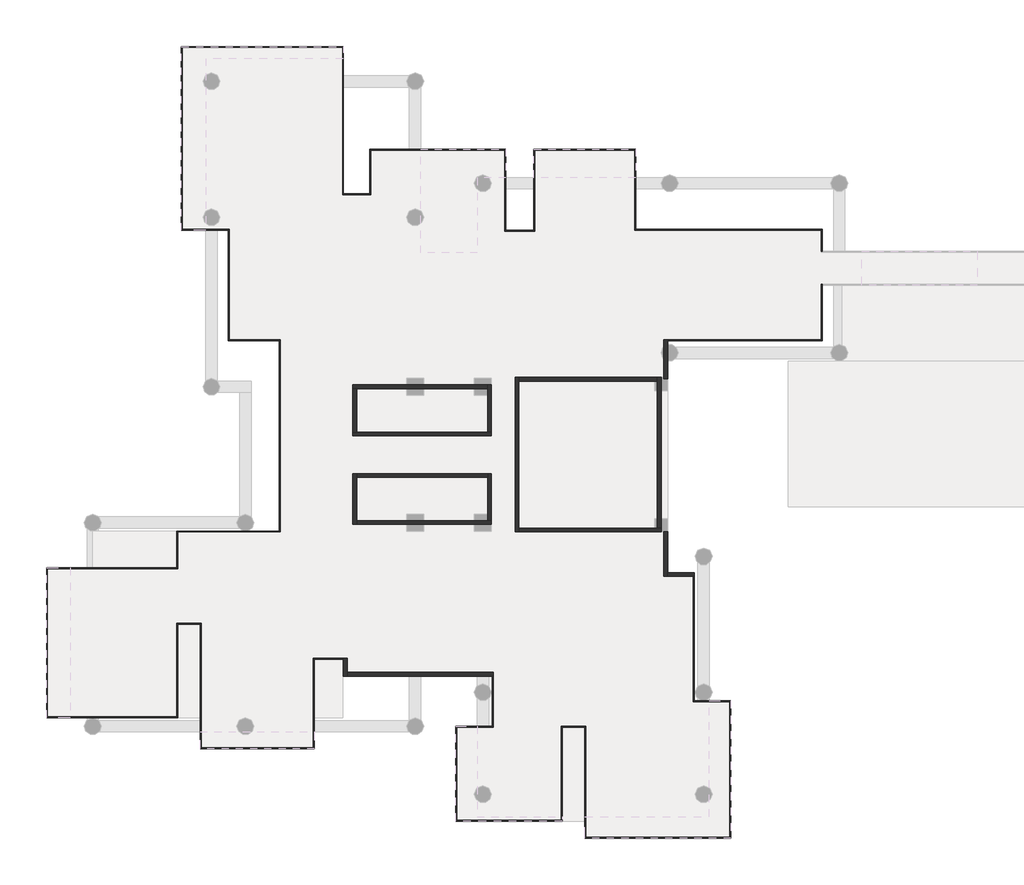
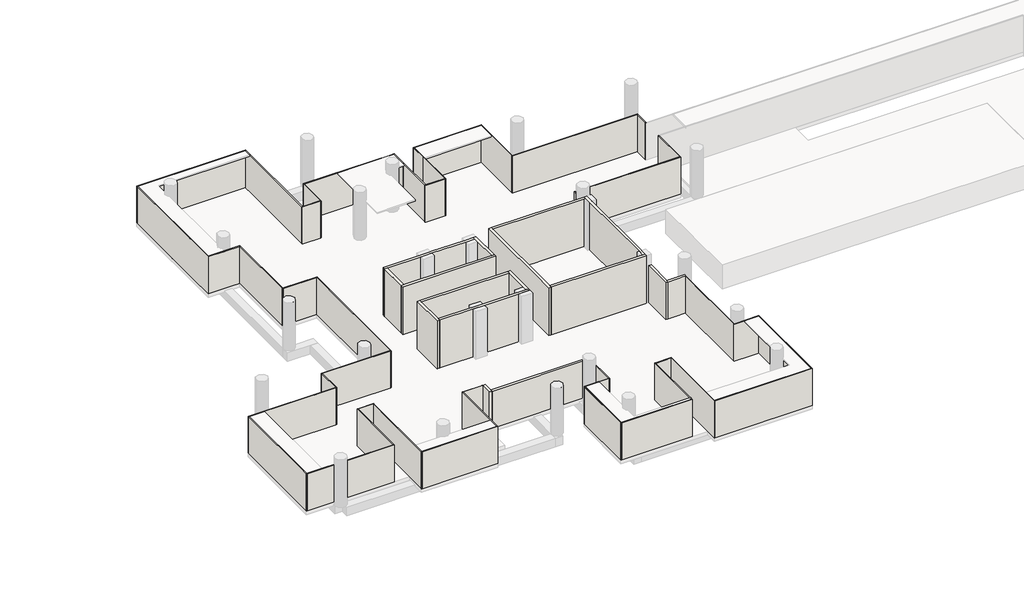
# One storey, part 1 of 3: 60 walls.
"""IFC4 building model written with IfcOpenShell, lengths in millimetres."""

from ifc_helpers import new_model, si_unit, frame, origin, place, context, project, spatial, polyline, outline, extrude, faceted_brep, element, save

model = new_model("IFC4")

# Units and contexts
model_context = context("Model", 3, world=origin())
ifc_project = project(units=[si_unit("LENGTHUNIT", "METRE", prefix="MILLI")], contexts=[model_context])

# Site, building, storey
site = spatial("IfcSite", under=ifc_project)
building = spatial("IfcBuilding", under=site)
storey = spatial("IfcBuildingStorey", under=building, Name="TW-L 02", Elevation=5999.9999686)

# Walls
placement = place(None, origin())
element("IfcWall", 1, ObjectType="AJN-ARC-CONCRETE WALL-20cm", at=placement, inside=storey, context=model_context, shape_type="Brep", body=[
    faceted_brep([(38200.0, 25900.0, 5999.9999686), (45550.0, 25900.0, 5999.9999686), (45550.0, 25900.0, 9999.9999686), (38200.0, 25900.0, 9999.9999686), (38200.0, 26100.0, 5999.9999686), (38200.0, 26100.0, 9999.9999686), (38400.0, 26100.0, 9999.9999686), (45350.0, 26100.0, 9999.9999686), (45550.0, 26100.0, 9999.9999686), (45550.0, 26100.0, 5999.9999686), (45350.0, 26100.0, 5999.9999686), (38400.0, 26100.0, 5999.9999686)], [[[0, 1, 2, 3]], [[4, 5, 6, 7, 8, 9, 10, 11]], [[1, 0, 4, 11, 10, 9]], [[3, 2, 8, 7, 6, 5]], [[2, 1, 9, 8]], [[0, 3, 5, 4]]]),
])
element("IfcWall", 2, ObjectType="AJN-ARC-CONCRETE WALL-20cm", at=placement, inside=storey, context=model_context, shape_type="Brep", body=[
    faceted_brep([(45550.0, 26100.0, 5999.9999686), (45550.0, 28600.0, 5999.9999686), (45550.0, 28600.0, 9999.9999686), (45550.0, 26100.0, 9999.9999686), (45350.0, 26100.0, 5999.9999686), (45350.0, 26100.0, 9999.9999686), (45350.0, 28050.0, 9999.9999686), (45350.0, 28400.0, 9999.9999686), (45350.0, 28600.0, 9999.9999686), (45350.0, 28600.0, 5999.9999686), (45350.0, 28400.0, 5999.9999686), (45350.0, 28050.0, 5999.9999686)], [[[0, 1, 2, 3]], [[4, 5, 6, 7, 8, 9, 10, 11]], [[1, 0, 4, 11, 10, 9]], [[3, 2, 8, 7, 6, 5]], [[2, 1, 9, 8]], [[0, 3, 5, 4]]]),
])
element("IfcWall", 3, ObjectType="AJN-ARC-CONCRETE WALL-20cm", at=placement, inside=storey, context=model_context, shape_type="Brep", body=[
    faceted_brep([(45350.0, 28600.0, 5999.9999686), (44650.0, 28600.0, 5999.9999686), (41950.0, 28600.0, 5999.9999686), (41050.0, 28600.0, 5999.9999686), (38200.0, 28600.0, 5999.9999686), (38200.0, 28600.0, 9999.9999686), (41050.0, 28600.0, 9999.9999686), (41950.0, 28600.0, 9999.9999686), (44650.0, 28600.0, 9999.9999686), (45350.0, 28600.0, 9999.9999686), (45350.0, 28400.0, 5999.9999686), (45350.0, 28400.0, 9999.9999686), (44650.0, 28400.0, 9999.9999686), (41950.0, 28400.0, 9999.9999686), (41050.0, 28400.0, 9999.9999686), (38400.0, 28400.0, 9999.9999686), (38200.0, 28400.0, 9999.9999686), (38200.0, 28400.0, 5999.9999686), (38400.0, 28400.0, 5999.9999686), (41050.0, 28400.0, 5999.9999686), (41950.0, 28400.0, 5999.9999686), (44650.0, 28400.0, 5999.9999686)], [[[0, 1, 2, 3, 4, 5, 6, 7, 8, 9]], [[10, 11, 12, 13, 14, 15, 16, 17, 18, 19, 20, 21]], [[4, 3, 2, 1, 0, 10, 21, 20, 19, 18, 17]], [[9, 8, 7, 6, 5, 16, 15, 14, 13, 12, 11]], [[5, 4, 17, 16]], [[0, 9, 11, 10]]]),
])
element("IfcWall", 4, ObjectType="AJN-ARC-CONCRETE WALL-20cm", at=placement, inside=storey, context=model_context, shape_type="SweptSolid", body=[
    extrude(outline(polyline([(38200.0, 26100.0), (38200.0, 28400.0), (38400.0, 28400.0), (38400.0, 26100.0), (38200.0, 26100.0)])), frame((0.0, 0.0, 5999.9999686), z_axis=(0.0, 0.0, 1.0), x_axis=(1.0, 0.0, 0.0)), (0.0, 0.0, 1.0), 4000.0),
])
element("IfcWall", 5, ObjectType="AJN-ARC-CONCRETE WALL-20cm", at=placement, inside=storey, context=model_context, shape_type="Brep", body=[
    faceted_brep([(38200.0, 23900.0, 5999.9999686), (38200.0, 21200.0, 5999.9999686), (38200.0, 21200.0, 9999.9999686), (38200.0, 23900.0, 9999.9999686), (38400.0, 23900.0, 5999.9999686), (38400.0, 23900.0, 9999.9999686), (38400.0, 23700.0, 9999.9999686), (38400.0, 21400.0, 9999.9999686), (38400.0, 21200.0, 9999.9999686), (38400.0, 21200.0, 5999.9999686), (38400.0, 21400.0, 5999.9999686), (38400.0, 23700.0, 5999.9999686)], [[[0, 1, 2, 3]], [[4, 5, 6, 7, 8, 9, 10, 11]], [[1, 0, 4, 11, 10, 9]], [[3, 2, 8, 7, 6, 5]], [[0, 3, 5, 4]], [[2, 1, 9, 8]]]),
])
element("IfcWall", 6, ObjectType="AJN-ARC-CONCRETE WALL-20cm", at=placement, inside=storey, context=model_context, shape_type="Brep", body=[
    faceted_brep([(38400.0, 21200.0, 5999.9999686), (41050.0, 21200.0, 5999.9999686), (41950.0, 21200.0, 5999.9999686), (44650.0, 21200.0, 5999.9999686), (45550.0, 21200.0, 5999.9999686), (45550.0, 21200.0, 9999.9999686), (44650.0, 21200.0, 9999.9999686), (41950.0, 21200.0, 9999.9999686), (41050.0, 21200.0, 9999.9999686), (38400.0, 21200.0, 9999.9999686), (38400.0, 21400.0, 5999.9999686), (38400.0, 21400.0, 9999.9999686), (41050.0, 21400.0, 9999.9999686), (41950.0, 21400.0, 9999.9999686), (44650.0, 21400.0, 9999.9999686), (45350.0, 21400.0, 9999.9999686), (45550.0, 21400.0, 9999.9999686), (45550.0, 21400.0, 5999.9999686), (45350.0, 21400.0, 5999.9999686), (44650.0, 21400.0, 5999.9999686), (41950.0, 21400.0, 5999.9999686), (41050.0, 21400.0, 5999.9999686)], [[[0, 1, 2, 3, 4, 5, 6, 7, 8, 9]], [[10, 11, 12, 13, 14, 15, 16, 17, 18, 19, 20, 21]], [[4, 3, 2, 1, 0, 10, 21, 20, 19, 18, 17]], [[9, 8, 7, 6, 5, 16, 15, 14, 13, 12, 11]], [[5, 4, 17, 16]], [[0, 9, 11, 10]]]),
])
element("IfcWall", 7, ObjectType="AJN-ARC-CONCRETE WALL-20cm", at=placement, inside=storey, context=model_context, shape_type="Brep", body=[
    faceted_brep([(45550.0, 21400.0, 5999.9999686), (45550.0, 23900.0, 5999.9999686), (45550.0, 23900.0, 9999.9999686), (45550.0, 21400.0, 9999.9999686), (45350.0, 21400.0, 5999.9999686), (45350.0, 21400.0, 9999.9999686), (45350.0, 21750.0, 9999.9999686), (45350.0, 23700.0, 9999.9999686), (45350.0, 23900.0, 9999.9999686), (45350.0, 23900.0, 5999.9999686), (45350.0, 23700.0, 5999.9999686), (45350.0, 21750.0, 5999.9999686)], [[[0, 1, 2, 3]], [[4, 5, 6, 7, 8, 9, 10, 11]], [[1, 0, 4, 11, 10, 9]], [[3, 2, 8, 7, 6, 5]], [[2, 1, 9, 8]], [[0, 3, 5, 4]]]),
])
element("IfcWall", 8, ObjectType="AJN-ARC-CONCRETE WALL-20cm", at=placement, inside=storey, context=model_context, shape_type="SweptSolid", body=[
    extrude(outline(polyline([(38400.0, 23900.0), (45350.0, 23900.0), (45350.0, 23700.0), (38400.0, 23700.0), (38400.0, 23900.0)])), frame((0.0, 0.0, 5999.9999686), z_axis=(0.0, 0.0, 1.0), x_axis=(1.0, 0.0, 0.0)), (0.0, 0.0, 1.0), 4000.0),
])
element("IfcWall", 9, ObjectType="AJN-ARC-CONCRETE WALL-20cm", at=placement, inside=storey, context=model_context, shape_type="Brep", body=[
    faceted_brep([(46800.0, 29000.0, 5999.9999686), (46800.0, 20800.0, 5999.9999686), (46800.0, 20800.0, 9999.9999686), (46800.0, 29000.0, 9999.9999686), (47000.0, 29000.0, 5999.9999686), (47000.0, 29000.0, 9999.9999686), (47000.0, 28800.0, 9999.9999686), (47000.0, 21000.0, 9999.9999686), (47000.0, 20800.0, 9999.9999686), (47000.0, 20800.0, 5999.9999686), (47000.0, 21000.0, 5999.9999686), (47000.0, 28800.0, 5999.9999686)], [[[0, 1, 2, 3]], [[4, 5, 6, 7, 8, 9, 10, 11]], [[1, 0, 4, 11, 10, 9]], [[3, 2, 8, 7, 6, 5]], [[0, 3, 5, 4]], [[2, 1, 9, 8]]]),
])
element("IfcWall", 10, ObjectType="AJN-ARC-CONCRETE WALL-20cm", at=placement, inside=storey, context=model_context, shape_type="Brep", body=[
    faceted_brep([(47000.0, 20800.0, 5999.9999686), (54550.0, 20800.0, 5999.9999686), (54550.0, 20800.0, 9999.9999686), (47000.0, 20800.0, 9999.9999686), (47000.0, 21000.0, 5999.9999686), (47000.0, 21000.0, 9999.9999686), (54200.0, 21000.0, 9999.9999686), (54350.0, 21000.0, 9999.9999686), (54550.0, 21000.0, 9999.9999686), (54550.0, 21000.0, 5999.9999686), (54350.0, 21000.0, 5999.9999686), (54200.0, 21000.0, 5999.9999686)], [[[0, 1, 2, 3]], [[4, 5, 6, 7, 8, 9, 10, 11]], [[1, 0, 4, 11, 10, 9]], [[3, 2, 8, 7, 6, 5]], [[2, 1, 9, 8]], [[0, 3, 5, 4]]]),
])
element("IfcWall", 11, ObjectType="AJN-ARC-CONCRETE WALL-20cm", at=placement, inside=storey, context=model_context, shape_type="Brep", body=[
    faceted_brep([(54550.0, 21000.0, 5999.9999686), (54550.0, 21500.0, 5999.9999686), (54550.0, 28300.0, 5999.9999686), (54550.0, 29000.0, 5999.9999686), (54550.0, 29000.0, 9999.9999686), (54550.0, 28300.0, 9999.9999686), (54550.0, 21500.0, 9999.9999686), (54550.0, 21000.0, 9999.9999686), (54350.0, 21000.0, 5999.9999686), (54350.0, 21000.0, 9999.9999686), (54350.0, 21500.0, 9999.9999686), (54350.0, 28300.0, 9999.9999686), (54350.0, 28800.0, 9999.9999686), (54350.0, 29000.0, 9999.9999686), (54350.0, 29000.0, 5999.9999686), (54350.0, 28800.0, 5999.9999686), (54350.0, 28300.0, 5999.9999686), (54350.0, 21500.0, 5999.9999686)], [[[0, 1, 2, 3, 4, 5, 6, 7]], [[8, 9, 10, 11, 12, 13, 14, 15, 16, 17]], [[3, 2, 1, 0, 8, 17, 16, 15, 14]], [[7, 6, 5, 4, 13, 12, 11, 10, 9]], [[4, 3, 14, 13]], [[0, 7, 9, 8]]]),
])
element("IfcWall", 12, ObjectType="AJN-ARC-CONCRETE WALL-20cm", at=placement, inside=storey, context=model_context, shape_type="Brep", body=[
    faceted_brep([(54350.0, 29000.0, 5999.9999686), (47000.0, 29000.0, 5999.9999686), (47000.0, 29000.0, 9999.9999686), (54350.0, 29000.0, 9999.9999686), (54350.0, 28800.0, 5999.9999686), (54350.0, 28800.0, 9999.9999686), (54200.0, 28800.0, 9999.9999686), (47000.0, 28800.0, 9999.9999686), (47000.0, 28800.0, 5999.9999686), (54200.0, 28800.0, 5999.9999686)], [[[0, 1, 2, 3]], [[4, 5, 6, 7, 8, 9]], [[1, 0, 4, 9, 8]], [[3, 2, 7, 6, 5]], [[2, 1, 8, 7]], [[0, 3, 5, 4]]]),
])
element("IfcWall", 13, ObjectType="AJN-ARC-CONCRETE WALL-20cm", at=placement, inside=storey, context=model_context, shape_type="Brep", body=[
    faceted_brep([(37700.0, 14100.0, 5999.9999686), (37700.0, 14050.0, 5999.9999686), (37700.0, 13150.0, 5999.9999686), (37700.0, 13150.0, 9099.9999686), (37700.0, 14050.0, 9099.9999686), (37700.0, 14100.0, 9099.9999686), (37900.0, 14100.0, 5999.9999686), (37900.0, 14100.0, 9099.9999686), (37900.0, 13350.0, 9099.9999686), (37900.0, 13150.0, 9099.9999686), (37900.0, 13150.0, 5999.9999686), (37900.0, 13350.0, 5999.9999686)], [[[0, 1, 2, 3, 4, 5]], [[6, 7, 8, 9, 10, 11]], [[2, 1, 0, 6, 11, 10]], [[5, 4, 3, 9, 8, 7]], [[0, 5, 7, 6]], [[3, 2, 10, 9]]]),
])
element("IfcWall", 14, ObjectType="AJN-ARC-CONCRETE WALL-20cm", at=placement, inside=storey, context=model_context, shape_type="Brep", body=[
    faceted_brep([(37900.0, 13150.0, 5999.9999686), (45600.0, 13150.0, 5999.9999686), (45650.0, 13150.0, 5999.9999686), (45650.0, 13150.0, 9099.9999686), (45600.0, 13150.0, 9099.9999686), (37900.0, 13150.0, 9099.9999686), (37900.0, 13350.0, 5999.9999686), (37900.0, 13350.0, 9099.9999686), (45650.0, 13350.0, 9099.9999686), (45650.0, 13350.0, 5999.9999686)], [[[0, 1, 2, 3, 4, 5]], [[6, 7, 8, 9]], [[2, 1, 0, 6, 9]], [[5, 4, 3, 8, 7]], [[3, 2, 9, 8]], [[0, 5, 7, 6]]]),
])
element("IfcWall", 15, ObjectType="AJN-ARC-CONCRETE WALL-20cm", at=placement, inside=storey, context=model_context, shape_type="Brep", body=[
    faceted_brep([(56300.0, 18650.0, 5999.9999686), (54900.0, 18650.0, 5999.9999686), (54900.0, 18650.0, 9099.9999686), (56300.0, 18650.0, 9099.9999686), (56300.0, 18450.0, 5999.9999686), (56300.0, 18450.0, 9099.9999686), (56250.0, 18450.0, 9099.9999686), (54900.0, 18450.0, 9099.9999686), (54900.0, 18450.0, 5999.9999686), (56250.0, 18450.0, 5999.9999686)], [[[0, 1, 2, 3]], [[4, 5, 6, 7, 8, 9]], [[1, 0, 4, 9, 8]], [[3, 2, 7, 6, 5]], [[0, 3, 5, 4]], [[2, 1, 8, 7]]]),
])
element("IfcWall", 16, ObjectType="AJN-ARC-CONCRETE WALL-20cm", at=placement, inside=storey, context=model_context, shape_type="Brep", body=[
    faceted_brep([(54900.0, 18450.0, 5999.9999686), (54900.0, 18650.0, 5999.9999686), (54900.0, 20800.0, 5999.9999686), (54900.0, 20800.0, 9099.9999686), (54900.0, 18650.0, 9099.9999686), (54900.0, 18450.0, 9099.9999686), (54700.0, 18450.0, 5999.9999686), (54700.0, 18450.0, 9099.9999686), (54700.0, 20800.0, 9099.9999686), (54700.0, 20800.0, 5999.9999686)], [[[0, 1, 2, 3, 4, 5]], [[6, 7, 8, 9]], [[2, 1, 0, 6, 9]], [[3, 2, 9, 8]], [[5, 4, 3, 8, 7]], [[0, 5, 7, 6]]]),
])
element("IfcWall", 17, ObjectType="AJN-ARC-CONCRETE WALL-20cm", at=placement, inside=storey, context=model_context, shape_type="Brep", body=[
    faceted_brep([(54900.0, 28925.0685078, 5999.9999686), (54900.0, 29861.2517806, 5999.9999686), (54900.0, 30738.7482194, 5999.9999686), (54900.0, 30950.0007569, 5999.9999686), (54900.0, 31000.0007569, 5999.9999686), (54900.0, 31000.0007569, 9099.9999686), (54900.0, 30950.0007569, 9099.9999686), (54900.0, 30738.7482194, 9099.9999686), (54900.0, 29861.2517806, 9099.9999686), (54900.0, 29000.0, 9099.9999686), (54900.0, 28925.0685078, 9099.9999686), (54700.0, 28925.0685078, 5999.9999686), (54700.0, 28925.0685078, 9099.9999686), (54700.0, 29000.0, 9099.9999686), (54700.0, 29964.5898034, 9099.9999686), (54700.0, 30635.4101966, 9099.9999686), (54700.0, 31000.0007569, 9099.9999686), (54700.0, 31000.0007569, 5999.9999686), (54700.0, 30635.4101966, 5999.9999686), (54700.0, 29964.5898034, 5999.9999686), (54700.0, 29000.0, 5999.9999686)], [[[0, 1, 2, 3, 4, 5, 6, 7, 8, 9, 10]], [[11, 12, 13, 14, 15, 16, 17, 18, 19, 20]], [[4, 3, 2, 1, 0, 11, 20, 19, 18, 17]], [[10, 9, 8, 7, 6, 5, 16, 15, 14, 13, 12]], [[0, 10, 12, 11]], [[5, 4, 17, 16]]]),
])
element("IfcWall", 18, ObjectType="AJN-ARC-GLASS-50mm", at=placement, inside=storey, context=model_context, shape_type="Brep", body=[
    faceted_brep([(54900.0, 30950.0007569, 5999.9999686), (63100.0206164, 30950.0007569, 5999.9999686), (63100.0206164, 30950.0007569, 9099.9999686), (54900.0, 30950.0007569, 9099.9999686), (54900.0, 31000.0007569, 5999.9999686), (54900.0, 31000.0007569, 9099.9999686), (63050.017962, 31000.0007569, 9099.9999686), (63100.0179621, 31000.0007569, 9099.9999686), (63100.0179621, 31000.0007569, 5999.9999686), (63050.017962, 31000.0007569, 5999.9999686)], [[[0, 1, 2, 3]], [[4, 5, 6, 7, 8, 9]], [[1, 0, 4, 9, 8]], [[3, 2, 7, 6, 5]], [[2, 1, 8, 7]], [[0, 3, 5, 4]]]),
])
element("IfcWall", 19, ObjectType="AJN-ARC-GLASS-50mm", at=placement, inside=storey, context=model_context, shape_type="Brep", body=[
    faceted_brep([(63100.0179621, 31000.0007569, 5999.9999686), (63099.8640082, 33900.0, 5999.9999686), (63099.8613538, 33950.0, 5999.9999686), (63099.8613538, 33950.0, 9099.9999686), (63099.8640082, 33900.0, 9099.9999686), (63100.0179621, 31000.0007569, 9099.9999686), (63050.017962, 31000.0007569, 5999.9999686), (63050.017962, 31000.0007569, 9099.9999686), (63049.8613537, 33950.0, 9099.9999686), (63049.8613537, 33950.0, 5999.9999686)], [[[0, 1, 2, 3, 4, 5]], [[6, 7, 8, 9]], [[2, 1, 0, 6, 9]], [[5, 4, 3, 8, 7]], [[0, 5, 7, 6]], [[3, 2, 9, 8]]]),
])
element("IfcWall", 20, ObjectType="AJN-ARC-GLASS-50mm", at=placement, inside=storey, context=model_context, shape_type="Brep", body=[
    faceted_brep([(45600.0, 13150.0, 5999.9999686), (45600.0, 10500.0, 5999.9999686), (45600.0, 10450.0, 5999.9999686), (45600.0, 10450.0, 9099.9999686), (45600.0, 10500.0, 9099.9999686), (45600.0, 13150.0, 9099.9999686), (45650.0, 13150.0, 5999.9999686), (45650.0, 13150.0, 9099.9999686), (45650.0, 10450.0, 9099.9999686), (45650.0, 10450.0, 5999.9999686)], [[[0, 1, 2, 3, 4, 5]], [[6, 7, 8, 9]], [[2, 1, 0, 6, 9]], [[5, 4, 3, 8, 7]], [[0, 5, 7, 6]], [[3, 2, 9, 8]]]),
])
element("IfcWall", 21, ObjectType="AJN-ARC-GLASS-50mm", at=placement, inside=storey, context=model_context, shape_type="Brep", body=[
    faceted_brep([(45600.0, 10500.0, 5999.9999686), (43650.0, 10500.0, 5999.9999686), (43650.0, 10500.0, 9099.9999686), (45600.0, 10500.0, 9099.9999686), (45600.0, 10450.0, 5999.9999686), (45600.0, 10450.0, 9099.9999686), (43700.0, 10450.0, 9099.9999686), (43650.0, 10450.0, 9099.9999686), (43650.0, 10450.0, 5999.9999686), (43700.0, 10450.0, 5999.9999686)], [[[0, 1, 2, 3]], [[4, 5, 6, 7, 8, 9]], [[1, 0, 4, 9, 8]], [[3, 2, 7, 6, 5]], [[2, 1, 8, 7]], [[0, 3, 5, 4]]]),
])
element("IfcWall", 22, ObjectType="AJN-ARC-GLASS-50mm", at=placement, inside=storey, context=model_context, shape_type="Brep", body=[
    faceted_brep([(43650.0, 10450.0, 5999.9999686), (43650.0, 5450.0, 5999.9999686), (43650.0, 5450.0, 9099.9999686), (43650.0, 10450.0, 9099.9999686), (43700.0, 10450.0, 5999.9999686), (43700.0, 10450.0, 9099.9999686), (43700.0, 5500.0, 9099.9999686), (43700.0, 5450.0, 9099.9999686), (43700.0, 5450.0, 5999.9999686), (43700.0, 5500.0, 5999.9999686)], [[[0, 1, 2, 3]], [[4, 5, 6, 7, 8, 9]], [[1, 0, 4, 9, 8]], [[3, 2, 7, 6, 5]], [[2, 1, 8, 7]], [[0, 3, 5, 4]]]),
])
element("IfcWall", 23, ObjectType="AJN-ARC-GLASS-50mm", at=placement, inside=storey, context=model_context, shape_type="Brep", body=[
    faceted_brep([(43700.0, 5450.0, 5999.9999686), (49300.0, 5450.0, 5999.9999686), (49300.0, 5450.0, 9099.9999686), (43700.0, 5450.0, 9099.9999686), (43700.0, 5500.0, 5999.9999686), (43700.0, 5500.0, 9099.9999686), (49250.0, 5500.0, 9099.9999686), (49300.0, 5500.0, 9099.9999686), (49300.0, 5500.0, 5999.9999686), (49250.0, 5500.0, 5999.9999686)], [[[0, 1, 2, 3]], [[4, 5, 6, 7, 8, 9]], [[1, 0, 4, 9, 8]], [[3, 2, 7, 6, 5]], [[2, 1, 8, 7]], [[0, 3, 5, 4]]]),
])
element("IfcWall", 24, ObjectType="AJN-ARC-GLASS-50mm", at=placement, inside=storey, context=model_context, shape_type="Brep", body=[
    faceted_brep([(49300.0, 5500.0, 5999.9999686), (49300.0, 10450.0, 5999.9999686), (49300.0, 10500.0, 5999.9999686), (49300.0, 10500.0, 9099.9999686), (49300.0, 10450.0, 9099.9999686), (49300.0, 5500.0, 9099.9999686), (49250.0, 5500.0, 5999.9999686), (49250.0, 5500.0, 9099.9999686), (49250.0, 10500.0, 9099.9999686), (49250.0, 10500.0, 5999.9999686)], [[[0, 1, 2, 3, 4, 5]], [[6, 7, 8, 9]], [[2, 1, 0, 6, 9]], [[5, 4, 3, 8, 7]], [[0, 5, 7, 6]], [[3, 2, 9, 8]]]),
])
element("IfcWall", 25, ObjectType="AJN-ARC-GLASS-50mm", at=placement, inside=storey, context=model_context, shape_type="Brep", body=[
    faceted_brep([(49300.0, 10450.0, 5999.9999686), (50500.0, 10450.0, 5999.9999686), (50550.0, 10450.0, 5999.9999686), (50550.0, 10450.0, 9099.9999686), (50500.0, 10450.0, 9099.9999686), (49300.0, 10450.0, 9099.9999686), (49300.0, 10500.0, 5999.9999686), (49300.0, 10500.0, 9099.9999686), (50550.0, 10500.0, 9099.9999686), (50550.0, 10500.0, 5999.9999686)], [[[0, 1, 2, 3, 4, 5]], [[6, 7, 8, 9]], [[2, 1, 0, 6, 9]], [[5, 4, 3, 8, 7]], [[3, 2, 9, 8]], [[0, 5, 7, 6]]]),
])
element("IfcWall", 26, ObjectType="AJN-ARC-GLASS-50mm", at=placement, inside=storey, context=model_context, shape_type="Brep", body=[
    faceted_brep([(50500.0, 10450.0, 5999.9999686), (50500.0, 4550.0, 5999.9999686), (50500.0, 4550.0, 9099.9999686), (50500.0, 10450.0, 9099.9999686), (50550.0, 10450.0, 5999.9999686), (50550.0, 10450.0, 9099.9999686), (50550.0, 4600.0, 9099.9999686), (50550.0, 4550.0, 9099.9999686), (50550.0, 4550.0, 5999.9999686), (50550.0, 4600.0, 5999.9999686)], [[[0, 1, 2, 3]], [[4, 5, 6, 7, 8, 9]], [[1, 0, 4, 9, 8]], [[3, 2, 7, 6, 5]], [[2, 1, 8, 7]], [[0, 3, 5, 4]]]),
])
element("IfcWall", 27, ObjectType="AJN-ARC-GLASS-50mm", at=placement, inside=storey, context=model_context, shape_type="Brep", body=[
    faceted_brep([(50550.0, 4550.0, 5999.9999686), (58250.0, 4550.0, 5999.9999686), (58250.0, 4550.0, 9099.9999686), (50550.0, 4550.0, 9099.9999686), (50550.0, 4600.0, 5999.9999686), (50550.0, 4600.0, 9099.9999686), (58200.0, 4600.0, 9099.9999686), (58250.0, 4600.0, 9099.9999686), (58250.0, 4600.0, 5999.9999686), (58200.0, 4600.0, 5999.9999686)], [[[0, 1, 2, 3]], [[4, 5, 6, 7, 8, 9]], [[1, 0, 4, 9, 8]], [[3, 2, 7, 6, 5]], [[2, 1, 8, 7]], [[0, 3, 5, 4]]]),
])
element("IfcWall", 28, ObjectType="AJN-ARC-GLASS-50mm", at=placement, inside=storey, context=model_context, shape_type="SweptSolid", body=[
    extrude(outline(polyline([(58250.0, 11800.0), (58250.0, 4600.0), (58200.0, 4600.0), (58200.0, 11800.0), (58250.0, 11800.0)])), frame((0.0, 0.0, 5999.9999686), z_axis=(0.0, 0.0, 1.0), x_axis=(1.0, 0.0, 0.0)), (0.0, 0.0, 1.0), 3100.0),
])
element("IfcWall", 29, ObjectType="AJN-ARC-GLASS-50mm", at=placement, inside=storey, context=model_context, shape_type="Brep", body=[
    faceted_brep([(58250.0, 11850.0, 5999.9999686), (56300.0, 11850.0, 5999.9999686), (56250.0, 11850.0, 5999.9999686), (56250.0, 11850.0, 9099.9999686), (56300.0, 11850.0, 9099.9999686), (58250.0, 11850.0, 9099.9999686), (58250.0, 11800.0, 5999.9999686), (58250.0, 11800.0, 9099.9999686), (58200.0, 11800.0, 9099.9999686), (56250.0, 11800.0, 9099.9999686), (56250.0, 11800.0, 5999.9999686), (58200.0, 11800.0, 5999.9999686)], [[[0, 1, 2, 3, 4, 5]], [[6, 7, 8, 9, 10, 11]], [[2, 1, 0, 6, 11, 10]], [[5, 4, 3, 9, 8, 7]], [[3, 2, 10, 9]], [[0, 5, 7, 6]]]),
])
element("IfcWall", 30, ObjectType="AJN-ARC-GLASS-50mm", at=placement, inside=storey, context=model_context, shape_type="SweptSolid", body=[
    extrude(outline(polyline([(56300.0, 18450.0), (56300.0, 11850.0), (56250.0, 11850.0), (56250.0, 18450.0), (56300.0, 18450.0)])), frame((0.0, 0.0, 5999.9999686), z_axis=(0.0, 0.0, 1.0), x_axis=(1.0, 0.0, 0.0)), (0.0, 0.0, 1.0), 3100.0),
])
element("IfcWall", 31, ObjectType="AJN-ARC-GLASS-50mm", at=placement, inside=storey, context=model_context, shape_type="Brep", body=[
    faceted_brep([(63100.0, 35700.0819041, 5999.9999686), (63100.0, 36850.0, 5999.9999686), (63100.0, 36850.0, 9099.9999686), (63100.0, 35700.0819041, 9099.9999686), (63050.0, 35700.082006, 5999.9999686), (63050.0, 35700.082006, 9099.9999686), (63050.0, 36799.9989649, 9099.9999686), (63050.0, 36849.998965, 9099.9999686), (63050.0, 36849.998965, 5999.9999686), (63050.0, 36799.9989649, 5999.9999686)], [[[0, 1, 2, 3]], [[4, 5, 6, 7, 8, 9]], [[1, 0, 4, 9, 8]], [[3, 2, 7, 6, 5]], [[2, 1, 8, 7]], [[0, 3, 5, 4]]]),
])
element("IfcWall", 32, ObjectType="AJN-ARC-GLASS-50mm", at=placement, inside=storey, context=model_context, shape_type="Brep", body=[
    faceted_brep([(63050.0, 36849.998965, 5999.9999686), (53200.0, 36849.7950591, 5999.9999686), (53150.0, 36849.794024, 5999.9999686), (53150.0, 36849.794024, 9099.9999686), (53200.0, 36849.7950591, 9099.9999686), (63050.0, 36849.998965, 9099.9999686), (63050.0, 36799.9989649, 5999.9999686), (63050.0, 36799.9989649, 9099.9999686), (53150.0, 36799.794024, 9099.9999686), (53150.0, 36799.794024, 5999.9999686)], [[[0, 1, 2, 3, 4, 5]], [[6, 7, 8, 9]], [[2, 1, 0, 6, 9]], [[5, 4, 3, 8, 7]], [[0, 5, 7, 6]], [[3, 2, 9, 8]]]),
])
element("IfcWall", 33, ObjectType="AJN-ARC-GLASS-50mm", at=placement, inside=storey, context=model_context, shape_type="Brep", body=[
    faceted_brep([(53200.0, 36849.7950591, 5999.9999686), (53200.0, 41100.0, 5999.9999686), (53200.0, 41100.0, 9099.9999686), (53200.0, 36849.7950591, 9099.9999686), (53150.0, 36849.794024, 5999.9999686), (53150.0, 36849.794024, 9099.9999686), (53150.0, 41050.0, 9099.9999686), (53150.0, 41100.0, 9099.9999686), (53150.0, 41100.0, 5999.9999686), (53150.0, 41050.0, 5999.9999686)], [[[0, 1, 2, 3]], [[4, 5, 6, 7, 8, 9]], [[1, 0, 4, 9, 8]], [[3, 2, 7, 6, 5]], [[2, 1, 8, 7]], [[0, 3, 5, 4]]]),
])
element("IfcWall", 34, ObjectType="AJN-ARC-GLASS-50mm", at=placement, inside=storey, context=model_context, shape_type="Brep", body=[
    faceted_brep([(53150.0, 41100.0, 5999.9999686), (47800.0, 41100.0, 5999.9999686), (47800.0, 41100.0, 9099.9999686), (53150.0, 41100.0, 9099.9999686), (53150.0, 41050.0, 5999.9999686), (53150.0, 41050.0, 9099.9999686), (47850.0, 41050.0, 9099.9999686), (47800.0, 41050.0, 9099.9999686), (47800.0, 41050.0, 5999.9999686), (47850.0, 41050.0, 5999.9999686)], [[[0, 1, 2, 3]], [[4, 5, 6, 7, 8, 9]], [[1, 0, 4, 9, 8]], [[3, 2, 7, 6, 5]], [[2, 1, 8, 7]], [[0, 3, 5, 4]]]),
])
element("IfcWall", 35, ObjectType="AJN-ARC-GLASS-50mm", at=placement, inside=storey, context=model_context, shape_type="SweptSolid", body=[
    extrude(outline(polyline([(47800.0, 39750.0), (47800.0, 41050.0), (47850.0, 41050.0), (47850.0, 39750.0), (47800.0, 39750.0)])), frame((0.0, 0.0, 5999.9999686), z_axis=(0.0, 0.0, 1.0), x_axis=(1.0, 0.0, 0.0)), (0.0, 0.0, 1.0), 3100.0),
])
element("IfcWall", 36, ObjectType="AJN-ARC-GLASS-50mm", at=placement, inside=storey, context=model_context, shape_type="Brep", body=[
    faceted_brep([(47800.0, 39750.0, 5999.9999686), (47800.0, 36800.0029729, 5999.9999686), (47800.0, 36750.0029729, 5999.9999686), (47800.0, 36750.0029729, 9099.9999686), (47800.0, 36800.0029729, 9099.9999686), (47800.0, 39750.0, 9099.9999686), (47850.0, 39750.0, 5999.9999686), (47850.0, 39750.0, 9099.9999686), (47850.0, 36750.0029729, 9099.9999686), (47850.0, 36750.0029729, 5999.9999686)], [[[0, 1, 2, 3, 4, 5]], [[6, 7, 8, 9]], [[2, 1, 0, 6, 9]], [[5, 4, 3, 8, 7]], [[0, 5, 7, 6]], [[3, 2, 9, 8]]]),
])
element("IfcWall", 37, ObjectType="AJN-ARC-GLASS-50mm", at=placement, inside=storey, context=model_context, shape_type="Brep", body=[
    faceted_brep([(47800.0, 36800.0029729, 5999.9999686), (46300.0, 36800.0029729, 5999.9999686), (46250.0, 36800.0029729, 5999.9999686), (46250.0, 36800.0029729, 9099.9999686), (46300.0, 36800.0029729, 9099.9999686), (47800.0, 36800.0029729, 9099.9999686), (47800.0, 36750.0029729, 5999.9999686), (47800.0, 36750.0029729, 9099.9999686), (46250.0, 36750.0029729, 9099.9999686), (46250.0, 36750.0029729, 5999.9999686)], [[[0, 1, 2, 3, 4, 5]], [[6, 7, 8, 9]], [[2, 1, 0, 6, 9]], [[5, 4, 3, 8, 7]], [[3, 2, 9, 8]], [[0, 5, 7, 6]]]),
])
element("IfcWall", 38, ObjectType="AJN-ARC-GLASS-50mm", at=placement, inside=storey, context=model_context, shape_type="SweptSolid", body=[
    extrude(outline(polyline([(46300.0, 39750.0), (46300.0, 36800.0029729), (46250.0, 36800.0029729), (46250.0, 39750.0), (46300.0, 39750.0)])), frame((0.0, 0.0, 5999.9999686), z_axis=(0.0, 0.0, 1.0), x_axis=(1.0, 0.0, 0.0)), (0.0, 0.0, 1.0), 3100.0),
])
element("IfcWall", 39, ObjectType="AJN-ARC-GLASS-50mm", at=placement, inside=storey, context=model_context, shape_type="Brep", body=[
    faceted_brep([(46300.0, 39750.0, 5999.9999686), (46300.0, 41100.0, 5999.9999686), (46300.0, 41100.0, 9099.9999686), (46300.0, 39750.0, 9099.9999686), (46250.0, 39750.0, 5999.9999686), (46250.0, 39750.0, 9099.9999686), (46250.0, 41050.0, 9099.9999686), (46250.0, 41100.0, 9099.9999686), (46250.0, 41100.0, 5999.9999686), (46250.0, 41050.0, 5999.9999686)], [[[0, 1, 2, 3]], [[4, 5, 6, 7, 8, 9]], [[1, 0, 4, 9, 8]], [[3, 2, 7, 6, 5]], [[0, 3, 5, 4]], [[2, 1, 8, 7]]]),
])
element("IfcWall", 40, ObjectType="AJN-ARC-GLASS-50mm", at=placement, inside=storey, context=model_context, shape_type="Brep", body=[
    faceted_brep([(46250.0, 41100.0, 5999.9999686), (39100.0, 41100.0, 5999.9999686), (39100.0, 41100.0, 9099.9999686), (46250.0, 41100.0, 9099.9999686), (46250.0, 41050.0, 5999.9999686), (46250.0, 41050.0, 9099.9999686), (39150.0, 41050.0, 9099.9999686), (39100.0, 41050.0, 9099.9999686), (39100.0, 41050.0, 5999.9999686), (39150.0, 41050.0, 5999.9999686)], [[[0, 1, 2, 3]], [[4, 5, 6, 7, 8, 9]], [[1, 0, 4, 9, 8]], [[3, 2, 7, 6, 5]], [[2, 1, 8, 7]], [[0, 3, 5, 4]]]),
])
element("IfcWall", 41, ObjectType="AJN-ARC-GLASS-50mm", at=placement, inside=storey, context=model_context, shape_type="Brep", body=[
    faceted_brep([(39100.0, 41050.0, 5999.9999686), (39100.0, 38750.0, 5999.9999686), (39100.0, 38700.0, 5999.9999686), (39100.0, 38700.0, 9099.9999686), (39100.0, 38750.0, 9099.9999686), (39100.0, 41050.0, 9099.9999686), (39150.0, 41050.0, 5999.9999686), (39150.0, 41050.0, 9099.9999686), (39150.0, 38700.0, 9099.9999686), (39150.0, 38700.0, 5999.9999686)], [[[0, 1, 2, 3, 4, 5]], [[6, 7, 8, 9]], [[2, 1, 0, 6, 9]], [[5, 4, 3, 8, 7]], [[0, 5, 7, 6]], [[3, 2, 9, 8]]]),
])
element("IfcWall", 42, ObjectType="AJN-ARC-GLASS-50mm", at=placement, inside=storey, context=model_context, shape_type="Brep", body=[
    faceted_brep([(39100.0, 38750.0, 5999.9999686), (37700.0, 38750.0, 5999.9999686), (37650.0, 38750.0, 5999.9999686), (37650.0, 38750.0, 9099.9999686), (37700.0, 38750.0, 9099.9999686), (39100.0, 38750.0, 9099.9999686), (39100.0, 38700.0, 5999.9999686), (39100.0, 38700.0, 9099.9999686), (37650.0, 38700.0, 9099.9999686), (37650.0, 38700.0, 5999.9999686)], [[[0, 1, 2, 3, 4, 5]], [[6, 7, 8, 9]], [[2, 1, 0, 6, 9]], [[5, 4, 3, 8, 7]], [[3, 2, 9, 8]], [[0, 5, 7, 6]]]),
])
element("IfcWall", 43, ObjectType="AJN-ARC-GLASS-50mm", at=placement, inside=storey, context=model_context, shape_type="Brep", body=[
    faceted_brep([(37700.0, 38750.0, 5999.9999686), (37700.0, 46550.0, 5999.9999686), (37700.0, 46550.0, 9099.9999686), (37700.0, 38750.0, 9099.9999686), (37650.0, 38750.0, 5999.9999686), (37650.0, 38750.0, 9099.9999686), (37650.0, 46500.0, 9099.9999686), (37650.0, 46550.0, 9099.9999686), (37650.0, 46550.0, 5999.9999686), (37650.0, 46500.0, 5999.9999686)], [[[0, 1, 2, 3]], [[4, 5, 6, 7, 8, 9]], [[1, 0, 4, 9, 8]], [[3, 2, 7, 6, 5]], [[2, 1, 8, 7]], [[0, 3, 5, 4]]]),
])
element("IfcWall", 44, ObjectType="AJN-ARC-GLASS-50mm", at=placement, inside=storey, context=model_context, shape_type="Brep", body=[
    faceted_brep([(37650.0, 46550.0, 5999.9999686), (29100.0, 46550.0000014, 5999.9999686), (29100.0, 46550.0000014, 9099.9999686), (37650.0, 46550.0, 9099.9999686), (37650.0, 46500.0, 5999.9999686), (37650.0, 46500.0, 9099.9999686), (29150.0, 46500.0000014, 9099.9999686), (29100.0, 46500.0000014, 9099.9999686), (29100.0, 46500.0000014, 5999.9999686), (29150.0, 46500.0000014, 5999.9999686)], [[[0, 1, 2, 3]], [[4, 5, 6, 7, 8, 9]], [[1, 0, 4, 9, 8]], [[3, 2, 7, 6, 5]], [[2, 1, 8, 7]], [[0, 3, 5, 4]]]),
])
element("IfcWall", 45, ObjectType="AJN-ARC-GLASS-50mm", at=placement, inside=storey, context=model_context, shape_type="Brep", body=[
    faceted_brep([(29100.0, 46500.0000014, 5999.9999686), (29100.0, 36800.0010731, 5999.9999686), (29100.0, 36800.0010731, 9099.9999686), (29100.0, 46500.0000014, 9099.9999686), (29150.0, 46500.0000014, 5999.9999686), (29150.0, 46500.0000014, 9099.9999686), (29150.0, 36850.0010731, 9099.9999686), (29150.0, 36800.0010731, 9099.9999686), (29150.0, 36800.0010731, 5999.9999686), (29150.0, 36850.0010731, 5999.9999686)], [[[0, 1, 2, 3]], [[4, 5, 6, 7, 8, 9]], [[1, 0, 4, 9, 8]], [[3, 2, 7, 6, 5]], [[2, 1, 8, 7]], [[0, 3, 5, 4]]]),
])
element("IfcWall", 46, ObjectType="AJN-ARC-GLASS-50mm", at=placement, inside=storey, context=model_context, shape_type="Brep", body=[
    faceted_brep([(29150.0, 36800.0010731, 5999.9999686), (31600.0, 36800.0010731, 5999.9999686), (31650.0, 36800.0010731, 5999.9999686), (31650.0, 36800.0010731, 9099.9999686), (31600.0, 36800.0010731, 9099.9999686), (29150.0, 36800.0010731, 9099.9999686), (29150.0, 36850.0010731, 5999.9999686), (29150.0, 36850.0010731, 9099.9999686), (31650.0, 36850.0010731, 9099.9999686), (31650.0, 36850.0010731, 5999.9999686)], [[[0, 1, 2, 3, 4, 5]], [[6, 7, 8, 9]], [[2, 1, 0, 6, 9]], [[5, 4, 3, 8, 7]], [[0, 5, 7, 6]], [[3, 2, 9, 8]]]),
])
element("IfcWall", 47, ObjectType="AJN-ARC-GLASS-50mm", at=placement, inside=storey, context=model_context, shape_type="Brep", body=[
    faceted_brep([(31600.0, 36800.0010731, 5999.9999686), (31600.0, 30950.0, 5999.9999686), (31600.0, 30950.0, 9099.9999686), (31600.0, 36800.0010731, 9099.9999686), (31650.0, 36800.0010731, 5999.9999686), (31650.0, 36800.0010731, 9099.9999686), (31650.0, 31000.0, 9099.9999686), (31650.0, 30950.0, 9099.9999686), (31650.0, 30950.0, 5999.9999686), (31650.0, 31000.0, 5999.9999686)], [[[0, 1, 2, 3]], [[4, 5, 6, 7, 8, 9]], [[1, 0, 4, 9, 8]], [[3, 2, 7, 6, 5]], [[2, 1, 8, 7]], [[0, 3, 5, 4]]]),
])
element("IfcWall", 48, ObjectType="AJN-ARC-GLASS-50mm", at=placement, inside=storey, context=model_context, shape_type="Brep", body=[
    faceted_brep([(31650.0, 30950.0, 5999.9999686), (34300.0, 30950.0, 5999.9999686), (34350.0, 30950.0, 5999.9999686), (34350.0, 30950.0, 9099.9999686), (34300.0, 30950.0, 9099.9999686), (31650.0, 30950.0, 9099.9999686), (31650.0, 31000.0, 5999.9999686), (31650.0, 31000.0, 9099.9999686), (34350.0, 31000.0, 9099.9999686), (34350.0, 31000.0, 5999.9999686)], [[[0, 1, 2, 3, 4, 5]], [[6, 7, 8, 9]], [[2, 1, 0, 6, 9]], [[5, 4, 3, 8, 7]], [[0, 5, 7, 6]], [[3, 2, 9, 8]]]),
])
element("IfcWall", 49, ObjectType="AJN-ARC-GLASS-50mm", at=placement, inside=storey, context=model_context, shape_type="Brep", body=[
    faceted_brep([(34300.0, 30950.0, 5999.9999686), (34300.0, 20850.0, 5999.9999686), (34300.0, 20800.0, 5999.9999686), (34300.0, 20800.0, 9099.9999686), (34300.0, 20850.0, 9099.9999686), (34300.0, 30950.0, 9099.9999686), (34350.0, 30950.0, 5999.9999686), (34350.0, 30950.0, 9099.9999686), (34350.0, 20800.0, 9099.9999686), (34350.0, 20800.0, 5999.9999686)], [[[0, 1, 2, 3, 4, 5]], [[6, 7, 8, 9]], [[2, 1, 0, 6, 9]], [[5, 4, 3, 8, 7]], [[3, 2, 9, 8]], [[0, 5, 7, 6]]]),
])
element("IfcWall", 50, ObjectType="AJN-ARC-GLASS-50mm", at=placement, inside=storey, context=model_context, shape_type="Brep", body=[
    faceted_brep([(34300.0, 20850.0, 5999.9999686), (28850.0, 20850.0, 5999.9999686), (28850.0, 20850.0, 9099.9999686), (34300.0, 20850.0, 9099.9999686), (34300.0, 20800.0, 5999.9999686), (34300.0, 20800.0, 9099.9999686), (28900.0, 20800.0, 9099.9999686), (28850.0, 20800.0, 9099.9999686), (28850.0, 20800.0, 5999.9999686), (28900.0, 20800.0, 5999.9999686)], [[[0, 1, 2, 3]], [[4, 5, 6, 7, 8, 9]], [[1, 0, 4, 9, 8]], [[3, 2, 7, 6, 5]], [[2, 1, 8, 7]], [[0, 3, 5, 4]]]),
])
element("IfcWall", 51, ObjectType="AJN-ARC-GLASS-50mm", at=placement, inside=storey, context=model_context, shape_type="Brep", body=[
    faceted_brep([(28850.0, 20800.0, 5999.9999686), (28850.0, 18900.0, 5999.9999686), (28850.0, 18850.0, 5999.9999686), (28850.0, 18850.0, 9099.9999686), (28850.0, 18900.0, 9099.9999686), (28850.0, 20800.0, 9099.9999686), (28900.0, 20800.0, 5999.9999686), (28900.0, 20800.0, 9099.9999686), (28900.0, 18850.0, 9099.9999686), (28900.0, 18850.0, 5999.9999686)], [[[0, 1, 2, 3, 4, 5]], [[6, 7, 8, 9]], [[2, 1, 0, 6, 9]], [[5, 4, 3, 8, 7]], [[0, 5, 7, 6]], [[3, 2, 9, 8]]]),
])
element("IfcWall", 52, ObjectType="AJN-ARC-GLASS-50mm", at=placement, inside=storey, context=model_context, shape_type="Brep", body=[
    faceted_brep([(28850.0, 18900.0, 5999.9999686), (21950.0, 18900.0, 5999.9999686), (21950.0, 18900.0, 9099.9999686), (28850.0, 18900.0, 9099.9999686), (28850.0, 18850.0, 5999.9999686), (28850.0, 18850.0, 9099.9999686), (22000.0, 18850.0, 9099.9999686), (21950.0, 18850.0, 9099.9999686), (21950.0, 18850.0, 5999.9999686), (22000.0, 18850.0, 5999.9999686)], [[[0, 1, 2, 3]], [[4, 5, 6, 7, 8, 9]], [[1, 0, 4, 9, 8]], [[3, 2, 7, 6, 5]], [[2, 1, 8, 7]], [[0, 3, 5, 4]]]),
])
element("IfcWall", 53, ObjectType="AJN-ARC-GLASS-50mm", at=placement, inside=storey, context=model_context, shape_type="Brep", body=[
    faceted_brep([(21950.0, 18850.0, 5999.9999686), (21950.0, 10950.0, 5999.9999686), (21950.0, 10950.0, 9099.9999686), (21950.0, 18850.0, 9099.9999686), (22000.0, 18850.0, 5999.9999686), (22000.0, 18850.0, 9099.9999686), (22000.0, 11000.0, 9099.9999686), (22000.0, 10950.0, 9099.9999686), (22000.0, 10950.0, 5999.9999686), (22000.0, 11000.0, 5999.9999686)], [[[0, 1, 2, 3]], [[4, 5, 6, 7, 8, 9]], [[1, 0, 4, 9, 8]], [[3, 2, 7, 6, 5]], [[2, 1, 8, 7]], [[0, 3, 5, 4]]]),
])
element("IfcWall", 54, ObjectType="AJN-ARC-GLASS-50mm", at=placement, inside=storey, context=model_context, shape_type="Brep", body=[
    faceted_brep([(22000.0, 10950.0, 5999.9999686), (28900.0, 10950.0, 5999.9999686), (28900.0, 10950.0, 9099.9999686), (22000.0, 10950.0, 9099.9999686), (22000.0, 11000.0, 5999.9999686), (22000.0, 11000.0, 9099.9999686), (28850.0, 11000.0, 9099.9999686), (28900.0, 11000.0, 9099.9999686), (28900.0, 11000.0, 5999.9999686), (28850.0, 11000.0, 5999.9999686)], [[[0, 1, 2, 3]], [[4, 5, 6, 7, 8, 9]], [[1, 0, 4, 9, 8]], [[3, 2, 7, 6, 5]], [[2, 1, 8, 7]], [[0, 3, 5, 4]]]),
])
element("IfcWall", 55, ObjectType="AJN-ARC-GLASS-50mm", at=placement, inside=storey, context=model_context, shape_type="Brep", body=[
    faceted_brep([(28900.0, 11000.0, 5999.9999686), (28900.0, 15900.0, 5999.9999686), (28900.0, 15950.0, 5999.9999686), (28900.0, 15950.0, 9099.9999686), (28900.0, 15900.0, 9099.9999686), (28900.0, 11000.0, 9099.9999686), (28850.0, 11000.0, 5999.9999686), (28850.0, 11000.0, 9099.9999686), (28850.0, 15950.0, 9099.9999686), (28850.0, 15950.0, 5999.9999686)], [[[0, 1, 2, 3, 4, 5]], [[6, 7, 8, 9]], [[2, 1, 0, 6, 9]], [[5, 4, 3, 8, 7]], [[0, 5, 7, 6]], [[3, 2, 9, 8]]]),
])
element("IfcWall", 56, ObjectType="AJN-ARC-GLASS-50mm", at=placement, inside=storey, context=model_context, shape_type="Brep", body=[
    faceted_brep([(28900.0, 15900.0, 5999.9999686), (30100.0, 15900.0, 5999.9999686), (30150.0, 15900.0, 5999.9999686), (30150.0, 15900.0, 9099.9999686), (30100.0, 15900.0, 9099.9999686), (28900.0, 15900.0, 9099.9999686), (28900.0, 15950.0, 5999.9999686), (28900.0, 15950.0, 9099.9999686), (30150.0, 15950.0, 9099.9999686), (30150.0, 15950.0, 5999.9999686)], [[[0, 1, 2, 3, 4, 5]], [[6, 7, 8, 9]], [[2, 1, 0, 6, 9]], [[5, 4, 3, 8, 7]], [[0, 5, 7, 6]], [[3, 2, 9, 8]]]),
])
element("IfcWall", 57, ObjectType="AJN-ARC-GLASS-50mm", at=placement, inside=storey, context=model_context, shape_type="Brep", body=[
    faceted_brep([(30100.0, 15900.0, 5999.9999686), (30100.0, 9300.0, 5999.9999686), (30100.0, 9300.0, 9099.9999686), (30100.0, 15900.0, 9099.9999686), (30150.0, 15900.0, 5999.9999686), (30150.0, 15900.0, 9099.9999686), (30150.0, 9350.0, 9099.9999686), (30150.0, 9300.0, 9099.9999686), (30150.0, 9300.0, 5999.9999686), (30150.0, 9350.0, 5999.9999686)], [[[0, 1, 2, 3]], [[4, 5, 6, 7, 8, 9]], [[1, 0, 4, 9, 8]], [[3, 2, 7, 6, 5]], [[2, 1, 8, 7]], [[0, 3, 5, 4]]]),
])
element("IfcWall", 58, ObjectType="AJN-ARC-GLASS-50mm", at=placement, inside=storey, context=model_context, shape_type="Brep", body=[
    faceted_brep([(30150.0, 9300.0, 5999.9999686), (36150.0, 9300.0, 5999.9999686), (36150.0, 9300.0, 9099.9999686), (30150.0, 9300.0, 9099.9999686), (30150.0, 9350.0, 5999.9999686), (30150.0, 9350.0, 9099.9999686), (36100.0, 9350.0, 9099.9999686), (36150.0, 9350.0, 9099.9999686), (36150.0, 9350.0, 5999.9999686), (36100.0, 9350.0, 5999.9999686)], [[[0, 1, 2, 3]], [[4, 5, 6, 7, 8, 9]], [[1, 0, 4, 9, 8]], [[3, 2, 7, 6, 5]], [[2, 1, 8, 7]], [[0, 3, 5, 4]]]),
])
element("IfcWall", 59, ObjectType="AJN-ARC-GLASS-50mm", at=placement, inside=storey, context=model_context, shape_type="Brep", body=[
    faceted_brep([(36150.0, 9350.0, 5999.9999686), (36150.0, 14050.0, 5999.9999686), (36150.0, 14100.0, 5999.9999686), (36150.0, 14100.0, 9099.9999686), (36150.0, 14050.0, 9099.9999686), (36150.0, 9350.0, 9099.9999686), (36100.0, 9350.0, 5999.9999686), (36100.0, 9350.0, 9099.9999686), (36100.0, 14100.0, 9099.9999686), (36100.0, 14100.0, 5999.9999686)], [[[0, 1, 2, 3, 4, 5]], [[6, 7, 8, 9]], [[2, 1, 0, 6, 9]], [[5, 4, 3, 8, 7]], [[0, 5, 7, 6]], [[3, 2, 9, 8]]]),
])
element("IfcWall", 60, ObjectType="AJN-ARC-GLASS-50mm", at=placement, inside=storey, context=model_context, shape_type="SweptSolid", body=[
    extrude(outline(polyline([(37700.0, 14050.0), (36150.0, 14050.0), (36150.0, 14100.0), (37700.0, 14100.0), (37700.0, 14050.0)])), frame((0.0, 0.0, 5999.9999686), z_axis=(0.0, 0.0, 1.0), x_axis=(1.0, 0.0, 0.0)), (0.0, 0.0, 1.0), 3100.0),
])

save(model, "model.ifc")
